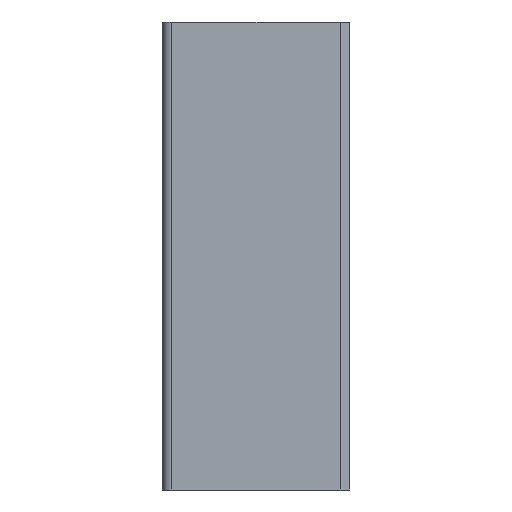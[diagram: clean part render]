
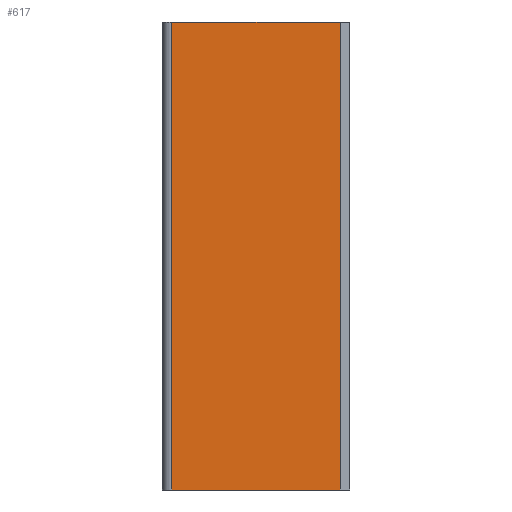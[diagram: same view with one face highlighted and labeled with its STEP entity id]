
A CAD part, left-side view. The second image highlights one B-rep face of the part: STEP entity #617.
In plain terms, the highlighted planar face has unit normal (-1, 0, 0).
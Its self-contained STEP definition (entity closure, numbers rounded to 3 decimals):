
#97=CARTESIAN_POINT('Line Origine',(0.,30.,0.)) ;
#101=CARTESIAN_POINT('Vertex',(0.,57.,0.)) ;
#103=CARTESIAN_POINT('Vertex',(0.,3.,0.)) ;
#520=CARTESIAN_POINT('Line Origine',(0.,30.,-150.)) ;
#524=CARTESIAN_POINT('Vertex',(0.,57.,-150.)) ;
#526=CARTESIAN_POINT('Vertex',(0.,3.,-150.)) ;
#596=CARTESIAN_POINT('Axis2P3D Location',(0.,57.,-150.)) ;
#601=CARTESIAN_POINT('Line Origine',(0.,57.,-75.)) ;
#606=CARTESIAN_POINT('Line Origine',(0.,3.,-75.)) ;
#98=DIRECTION('Vector Direction',(0.,-1.,0.)) ;
#521=DIRECTION('Vector Direction',(0.,-1.,0.)) ;
#597=DIRECTION('Axis2P3D Direction',(-1.,0.,0.)) ;
#598=DIRECTION('Axis2P3D XDirection',(0.,0.,1.)) ;
#602=DIRECTION('Vector Direction',(0.,0.,1.)) ;
#607=DIRECTION('Vector Direction',(0.,0.,1.)) ;
#599=AXIS2_PLACEMENT_3D('Plane Axis2P3D',#596,#597,#598) ;
#612=ORIENTED_EDGE('',*,*,#105,.F.) ;
#613=ORIENTED_EDGE('',*,*,#605,.F.) ;
#614=ORIENTED_EDGE('',*,*,#528,.T.) ;
#615=ORIENTED_EDGE('',*,*,#610,.T.) ;
#99=VECTOR('Line Direction',#98,1.) ;
#522=VECTOR('Line Direction',#521,1.) ;
#603=VECTOR('Line Direction',#602,1.) ;
#608=VECTOR('Line Direction',#607,1.) ;
#617=ADVANCED_FACE('A935-15017060',(#616),#600,.T.) ;
#105=EDGE_CURVE('',#102,#104,#100,.T.) ;
#528=EDGE_CURVE('',#525,#527,#523,.T.) ;
#605=EDGE_CURVE('',#525,#102,#604,.T.) ;
#610=EDGE_CURVE('',#527,#104,#609,.T.) ;
#611=EDGE_LOOP('',(#612,#613,#614,#615)) ;
#616=FACE_OUTER_BOUND('',#611,.T.) ;
#100=LINE('Line',#97,#99) ;
#523=LINE('Line',#520,#522) ;
#604=LINE('Line',#601,#603) ;
#609=LINE('Line',#606,#608) ;
#600=PLANE('Plane',#599) ;
#102=VERTEX_POINT('',#101) ;
#104=VERTEX_POINT('',#103) ;
#525=VERTEX_POINT('',#524) ;
#527=VERTEX_POINT('',#526) ;
